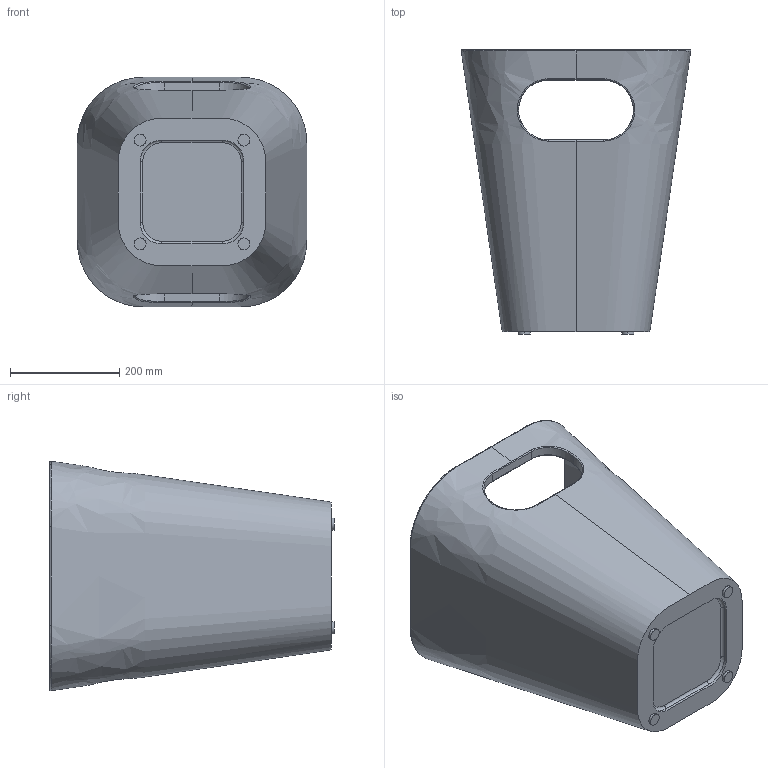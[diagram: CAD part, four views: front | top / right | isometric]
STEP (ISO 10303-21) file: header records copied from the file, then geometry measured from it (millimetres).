
FILE_DESCRIPTION (( 'STEP AP203' ), '1' );
FILE_NAME ('ULI CES.STEP', '2019-08-07T15:05:36', ( '' ), ( '' ), 'SwSTEP 2.0', 'SolidWorks 2019', '' );
FILE_SCHEMA (( 'CONFIG_CONTROL_DESIGN' ));
Length unit declared in the file: millimetre
Products named in the file (1): ULI CES
Bounding box: 419.37 x 520 x 419.37 mm (x, y, z)
Volume: 10833014.4 mm3; surface area: 1263108.5 mm2
Topology: 1 solids, 1 shells, 94 faces, 252 edges, 162 vertices
Faces by surface type: bspline 50, cylinder 24, plane 16, torus 4
Entity records: 12427 total; most frequent: CARTESIAN_POINT 10341, ORIENTED_EDGE 504, DIRECTION 312, EDGE_CURVE 252, VERTEX_POINT 162, AXIS2_PLACEMENT_3D 131, B_SPLINE_CURVE_WITH_KNOTS 116, EDGE_LOOP 100
